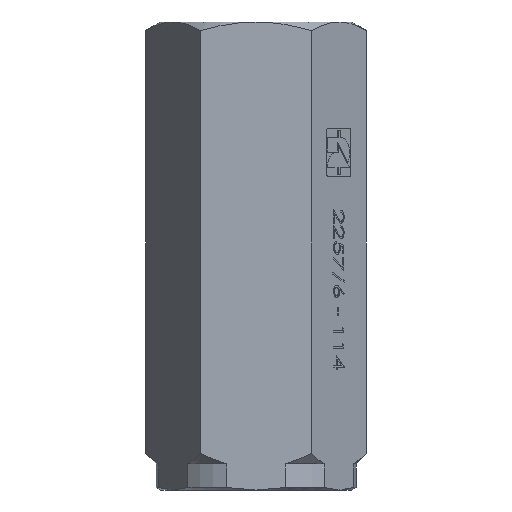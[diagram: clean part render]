
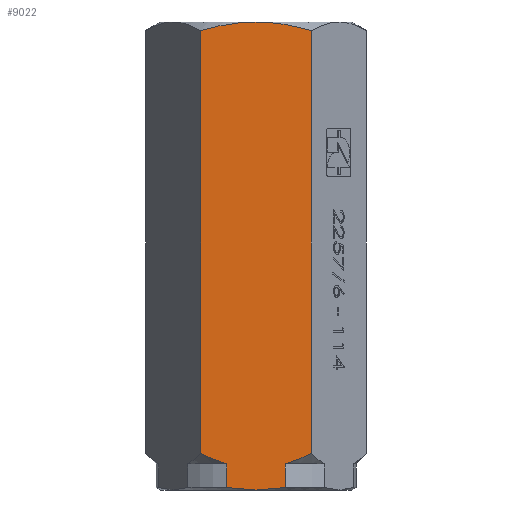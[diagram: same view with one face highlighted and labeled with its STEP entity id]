
A CAD part, front view. The second image highlights one B-rep face of the part: STEP entity #9022.
In plain terms, the highlighted planar face has unit normal (0, -1, 0).
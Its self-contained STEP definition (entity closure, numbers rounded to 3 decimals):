
#103 = CARTESIAN_POINT ( 'NONE',  ( -15.877, -27.5, 64.794 ) ) ;
#151 = CARTESIAN_POINT ( 'NONE',  ( -14.586, -27.5, 65.167 ) ) ;
#215 = CARTESIAN_POINT ( 'NONE',  ( -13.283, -27.5, 65.509 ) ) ;
#254 = CARTESIAN_POINT ( 'NONE',  ( -10.647, -27.5, 66.116 ) ) ;
#338 = CARTESIAN_POINT ( 'NONE',  ( -5.349, -27.5, 67.019 ) ) ;
#362 = CARTESIAN_POINT ( 'NONE',  ( -2.683, -27.5, 67.25 ) ) ;
#375 = B_SPLINE_CURVE_WITH_KNOTS ( 'NONE', 3,
 ( #15213, #5881, #16574, #8475, #599, #9819 ),
 .UNSPECIFIED., .F., .F.,
 ( 4, 2, 4 ),
 ( 0.048, 0.052, 0.056 ),
 .UNSPECIFIED. ) ;
#489 = VERTEX_POINT ( 'NONE', #15625 ) ;
#599 = CARTESIAN_POINT ( 'NONE',  ( -14.675, -27.5, -57.347 ) ) ;
#911 = CARTESIAN_POINT ( 'NONE',  ( 15.877, -27.5, -56.746 ) ) ;
#1082 = CARTESIAN_POINT ( 'NONE',  ( 0., -27.5, 67.25 ) ) ;
#1155 = ORIENTED_EDGE ( 'NONE', *, *, #9124, .F. ) ;
#1182 = AXIS2_PLACEMENT_3D ( 'NONE', #12679, #4712, #14030 ) ;
#1287 = VERTEX_POINT ( 'NONE', #7675 ) ;
#1350 = VERTEX_POINT ( 'NONE', #7438 ) ;
#1688 = CARTESIAN_POINT ( 'NONE',  ( 0., -27.5, 67.25 ) ) ;
#1751 = CARTESIAN_POINT ( 'NONE',  ( -8.385, -27.5, -66.528 ) ) ;
#1800 = ORIENTED_EDGE ( 'NONE', *, *, #15215, .T. ) ;
#2085 = CARTESIAN_POINT ( 'NONE',  ( 8.385, -27.5, 0. ) ) ;
#2387 = CARTESIAN_POINT ( 'NONE',  ( -9.325, -27.5, 66.378 ) ) ;
#2484 = CARTESIAN_POINT ( 'NONE',  ( 2.8, -27.5, -67.188 ) ) ;
#2766 = CARTESIAN_POINT ( 'NONE',  ( 14.67, -27.5, -57.349 ) ) ;
#2991 = VECTOR ( 'NONE', #6093, 1000. ) ;
#3177 = CARTESIAN_POINT ( 'NONE',  ( 15.877, -27.5, -56.746 ) ) ;
#3366 = ORIENTED_EDGE ( 'NONE', *, *, #9304, .T. ) ;
#3638 = CARTESIAN_POINT ( 'NONE',  ( 15.877, -27.5, 64.794 ) ) ;
#3658 = CARTESIAN_POINT ( 'NONE',  ( 0., -27.5, -67.25 ) ) ;
#3762 = VERTEX_POINT ( 'NONE', #14862 ) ;
#3828 = CARTESIAN_POINT ( 'NONE',  ( 7.007, -27.5, -66.76 ) ) ;
#3836 = VERTEX_POINT ( 'NONE', #4684 ) ;
#4684 = CARTESIAN_POINT ( 'NONE',  ( -8.385, -27.5, -66.528 ) ) ;
#4712 = DIRECTION ( 'NONE',  ( 0., 1., 0. ) ) ;
#4878 = LINE ( 'NONE', #13188, #11945 ) ;
#5218 = DIRECTION ( 'NONE',  ( 0., 0., -1. ) ) ;
#5242 = LINE ( 'NONE', #2085, #12329 ) ;
#5564 = CARTESIAN_POINT ( 'NONE',  ( -5.607, -27.5, -66.996 ) ) ;
#5712 = ORIENTED_EDGE ( 'NONE', *, *, #8955, .F. ) ;
#5751 = CARTESIAN_POINT ( 'NONE',  ( 0., -27.5, -67.25 ) ) ;
#5875 = EDGE_CURVE ( 'NONE', #15720, #3762, #12644, .T. ) ;
#5881 = CARTESIAN_POINT ( 'NONE',  ( -9.689, -27.5, -59.37 ) ) ;
#5937 = CARTESIAN_POINT ( 'NONE',  ( -8.385, -27.5, -59.75 ) ) ;
#6093 = DIRECTION ( 'NONE',  ( 0., 0., -1. ) ) ;
#6235 = B_SPLINE_CURVE_WITH_KNOTS ( 'NONE', 3,
 ( #1688, #362, #338, #2387, #254, #215, #151, #103 ),
 .UNSPECIFIED., .F., .F.,
 ( 4, 2, 2, 4 ),
 ( 0.028, 0.036, 0.04, 0.044 ),
 .UNSPECIFIED. ) ;
#6358 = CARTESIAN_POINT ( 'NONE',  ( 10.709, -27.5, 66.152 ) ) ;
#7277 = PLANE ( 'NONE',  #1182 ) ;
#7438 = CARTESIAN_POINT ( 'NONE',  ( -15.877, -27.5, 64.794 ) ) ;
#7622 = CARTESIAN_POINT ( 'NONE',  ( 5.391, -27.5, 66.966 ) ) ;
#7675 = CARTESIAN_POINT ( 'NONE',  ( 15.877, -27.5, 64.794 ) ) ;
#8475 = CARTESIAN_POINT ( 'NONE',  ( -13.453, -27.5, -57.907 ) ) ;
#8663 = EDGE_CURVE ( 'NONE', #12099, #1350, #6235, .T. ) ;
#8890 = VERTEX_POINT ( 'NONE', #14924 ) ;
#8945 = B_SPLINE_CURVE_WITH_KNOTS ( 'NONE', 3,
 ( #3638, #12989, #6358, #15700, #7622, #17061, #8959, #1082 ),
 .UNSPECIFIED., .F., .F.,
 ( 4, 2, 2, 4 ),
 ( 0.012, 0.02, 0.024, 0.028 ),
 .UNSPECIFIED. ) ;
#8955 = EDGE_CURVE ( 'NONE', #15955, #489, #375, .T. ) ;
#8959 = CARTESIAN_POINT ( 'NONE',  ( 1.342, -27.5, 67.25 ) ) ;
#9022 = ADVANCED_FACE ( 'NONE', ( #11990 ), #7277, .F. ) ;
#9051 = CARTESIAN_POINT ( 'NONE',  ( 0., -27.5, -67.25 ) ) ;
#9124 = EDGE_CURVE ( 'NONE', #3836, #15955, #9842, .T. ) ;
#9205 = ORIENTED_EDGE ( 'NONE', *, *, #5875, .F. ) ;
#9304 = EDGE_CURVE ( 'NONE', #16463, #8890, #9572, .T. ) ;
#9359 = ORIENTED_EDGE ( 'NONE', *, *, #10007, .F. ) ;
#9426 = VECTOR ( 'NONE', #12791, 1000. ) ;
#9556 = ORIENTED_EDGE ( 'NONE', *, *, #15301, .F. ) ;
#9572 = B_SPLINE_CURVE_WITH_KNOTS ( 'NONE', 3,
 ( #9051, #10381, #2484, #11771, #3828, #13120 ),
 .UNSPECIFIED., .F., .F.,
 ( 4, 2, 4 ),
 ( 0.044, 0.049, 0.053 ),
 .UNSPECIFIED. ) ;
#9577 = ORIENTED_EDGE ( 'NONE', *, *, #8663, .T. ) ;
#9819 = CARTESIAN_POINT ( 'NONE',  ( -15.877, -27.5, -56.746 ) ) ;
#9842 = LINE ( 'NONE', #14078, #9426 ) ;
#9909 = DIRECTION ( 'NONE',  ( 0., 0., -1. ) ) ;
#10007 = EDGE_CURVE ( 'NONE', #3762, #8890, #5242, .T. ) ;
#10381 = CARTESIAN_POINT ( 'NONE',  ( 1.398, -27.5, -67.25 ) ) ;
#11139 = CARTESIAN_POINT ( 'NONE',  ( 0., -27.5, 67.25 ) ) ;
#11476 = EDGE_LOOP ( 'NONE', ( #9556, #14148, #9577, #15210, #5712, #1155, #1800, #3366, #9359, #9205 ) ) ;
#11771 = CARTESIAN_POINT ( 'NONE',  ( 5.614, -27.5, -66.942 ) ) ;
#11945 = VECTOR ( 'NONE', #5218, 1000. ) ;
#11990 = FACE_OUTER_BOUND ( 'NONE', #11476, .T. ) ;
#12034 = CARTESIAN_POINT ( 'NONE',  ( 8.385, -27.5, -59.75 ) ) ;
#12099 = VERTEX_POINT ( 'NONE', #11139 ) ;
#12329 = VECTOR ( 'NONE', #9909, 1000. ) ;
#12542 = B_SPLINE_CURVE_WITH_KNOTS ( 'NONE', 3,
 ( #1751, #5564, #13709, #5751 ),
 .UNSPECIFIED., .F., .F.,
 ( 4, 4 ),
 ( 0.036, 0.044 ),
 .UNSPECIFIED. ) ;
#12644 = B_SPLINE_CURVE_WITH_KNOTS ( 'NONE', 3,
 ( #3177, #2766, #13582, #14744, #14996, #12034 ),
 .UNSPECIFIED., .F., .F.,
 ( 4, 2, 4 ),
 ( 0.023, 0.027, 0.031 ),
 .UNSPECIFIED. ) ;
#12679 = CARTESIAN_POINT ( 'NONE',  ( 15.877, -27.5, 67.25 ) ) ;
#12791 = DIRECTION ( 'NONE',  ( 0., 0., 1. ) ) ;
#12989 = CARTESIAN_POINT ( 'NONE',  ( 13.31, -27.5, 65.535 ) ) ;
#13120 = CARTESIAN_POINT ( 'NONE',  ( 8.385, -27.5, -66.528 ) ) ;
#13161 = LINE ( 'NONE', #14063, #2991 ) ;
#13188 = CARTESIAN_POINT ( 'NONE',  ( -15.877, -27.5, 67.25 ) ) ;
#13582 = CARTESIAN_POINT ( 'NONE',  ( 13.436, -27.5, -57.914 ) ) ;
#13709 = CARTESIAN_POINT ( 'NONE',  ( -2.813, -27.5, -67.25 ) ) ;
#14030 = DIRECTION ( 'NONE',  ( -1., 0., 0. ) ) ;
#14063 = CARTESIAN_POINT ( 'NONE',  ( 15.877, -27.5, 67.25 ) ) ;
#14078 = CARTESIAN_POINT ( 'NONE',  ( -8.385, -27.5, 0. ) ) ;
#14148 = ORIENTED_EDGE ( 'NONE', *, *, #14316, .T. ) ;
#14316 = EDGE_CURVE ( 'NONE', #1287, #12099, #8945, .T. ) ;
#14744 = CARTESIAN_POINT ( 'NONE',  ( 10.939, -27.5, -58.926 ) ) ;
#14862 = CARTESIAN_POINT ( 'NONE',  ( 8.385, -27.5, -59.75 ) ) ;
#14924 = CARTESIAN_POINT ( 'NONE',  ( 8.385, -27.5, -66.528 ) ) ;
#14996 = CARTESIAN_POINT ( 'NONE',  ( 9.674, -27.5, -59.374 ) ) ;
#15027 = EDGE_CURVE ( 'NONE', #1350, #489, #4878, .T. ) ;
#15210 = ORIENTED_EDGE ( 'NONE', *, *, #15027, .T. ) ;
#15213 = CARTESIAN_POINT ( 'NONE',  ( -8.385, -27.5, -59.75 ) ) ;
#15215 = EDGE_CURVE ( 'NONE', #3836, #16463, #12542, .T. ) ;
#15301 = EDGE_CURVE ( 'NONE', #1287, #15720, #13161, .T. ) ;
#15625 = CARTESIAN_POINT ( 'NONE',  ( -15.877, -27.5, -56.746 ) ) ;
#15700 = CARTESIAN_POINT ( 'NONE',  ( 6.731, -27.5, 66.798 ) ) ;
#15720 = VERTEX_POINT ( 'NONE', #911 ) ;
#15955 = VERTEX_POINT ( 'NONE', #5937 ) ;
#16463 = VERTEX_POINT ( 'NONE', #3658 ) ;
#16574 = CARTESIAN_POINT ( 'NONE',  ( -10.96, -27.5, -58.918 ) ) ;
#17061 = CARTESIAN_POINT ( 'NONE',  ( 2.689, -27.5, 67.193 ) ) ;
